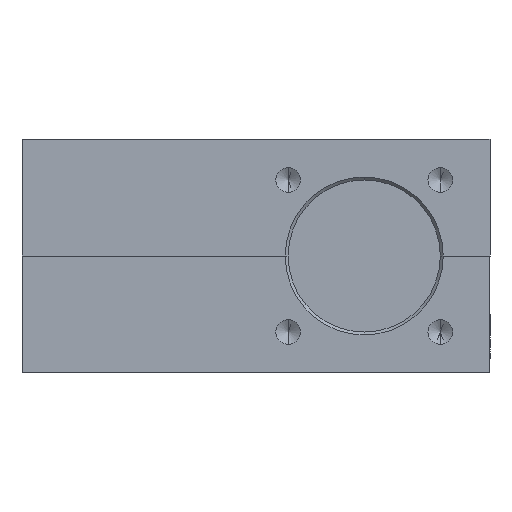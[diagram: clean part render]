
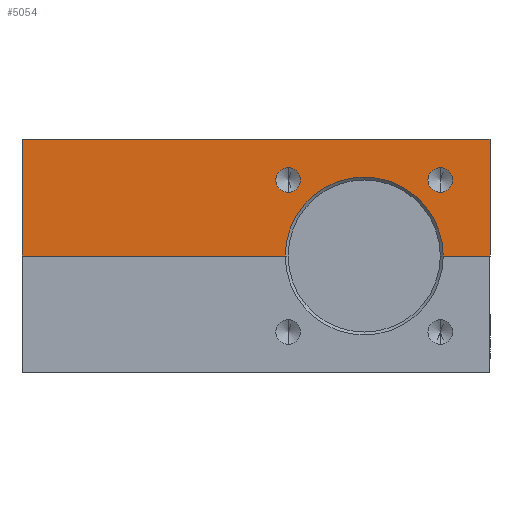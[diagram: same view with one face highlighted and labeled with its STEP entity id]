
A CAD part, left-side view. The second image highlights one B-rep face of the part: STEP entity #5054.
In plain terms, the highlighted planar face has unit normal (-1, 0, 0).
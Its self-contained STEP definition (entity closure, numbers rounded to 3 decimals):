
#23 = EDGE_CURVE ( 'NONE', #7489, #6256, #16127, .T. ) ;
#120 = CARTESIAN_POINT ( 'NONE',  ( -40., -52.5, 20. ) ) ;
#429 = CARTESIAN_POINT ( 'NONE',  ( -40., -18., 10.9 ) ) ;
#891 = CARTESIAN_POINT ( 'NONE',  ( -40., -44., 15.1 ) ) ;
#1131 = EDGE_CURVE ( 'NONE', #15343, #11271, #16236, .T. ) ;
#1133 = EDGE_CURVE ( 'NONE', #15481, #13762, #2172, .T. ) ;
#1271 = EDGE_CURVE ( 'NONE', #13762, #15481, #9764, .T. ) ;
#1645 = LINE ( 'NONE', #10266, #10906 ) ;
#1806 = CARTESIAN_POINT ( 'NONE',  ( -40., -31., 13.5 ) ) ;
#2172 = CIRCLE ( 'NONE', #7035, 2.1 ) ;
#2326 = ORIENTED_EDGE ( 'NONE', *, *, #12646, .T. ) ;
#2464 = AXIS2_PLACEMENT_3D ( 'NONE', #7031, #14615, #12197 ) ;
#2513 = PLANE ( 'NONE',  #5930 ) ;
#2677 = CARTESIAN_POINT ( 'NONE',  ( -40., -31., 0. ) ) ;
#2851 = AXIS2_PLACEMENT_3D ( 'NONE', #7190, #8973, #15201 ) ;
#2938 = CARTESIAN_POINT ( 'NONE',  ( -40., 27.5, 20. ) ) ;
#2992 = EDGE_CURVE ( 'NONE', #12049, #7489, #14428, .T. ) ;
#3184 = ORIENTED_EDGE ( 'NONE', *, *, #23, .T. ) ;
#3378 = VERTEX_POINT ( 'NONE', #14430 ) ;
#3527 = CARTESIAN_POINT ( 'NONE',  ( -40., -52.5, 0. ) ) ;
#3625 = FACE_OUTER_BOUND ( 'NONE', #10439, .T. ) ;
#3703 = DIRECTION ( 'NONE',  ( 1., 0., 0. ) ) ;
#4012 = LINE ( 'NONE', #15561, #15573 ) ;
#4091 = DIRECTION ( 'NONE',  ( 0., -1., 0. ) ) ;
#4441 = VERTEX_POINT ( 'NONE', #3527 ) ;
#4674 = DIRECTION ( 'NONE',  ( 0., -1., 0. ) ) ;
#4753 = CARTESIAN_POINT ( 'NONE',  ( -40., -44., 13. ) ) ;
#4788 = DIRECTION ( 'NONE',  ( 0., 0., 1. ) ) ;
#4839 = DIRECTION ( 'NONE',  ( -1., 0., 0. ) ) ;
#5054 = ADVANCED_FACE ( 'NONE', ( #8598, #15098, #3625 ), #2513, .F. ) ;
#5512 = VERTEX_POINT ( 'NONE', #12948 ) ;
#5826 = VERTEX_POINT ( 'NONE', #429 ) ;
#5930 = AXIS2_PLACEMENT_3D ( 'NONE', #8774, #3703, #7658 ) ;
#6154 = DIRECTION ( 'NONE',  ( -1., 0., 0. ) ) ;
#6256 = VERTEX_POINT ( 'NONE', #11932 ) ;
#6472 = DIRECTION ( 'NONE',  ( 1., 0., 0. ) ) ;
#6864 = DIRECTION ( 'NONE',  ( 0., -1., 0. ) ) ;
#7031 = CARTESIAN_POINT ( 'NONE',  ( -40., -44., 13. ) ) ;
#7035 = AXIS2_PLACEMENT_3D ( 'NONE', #4753, #4839, #14974 ) ;
#7136 = ORIENTED_EDGE ( 'NONE', *, *, #12217, .F. ) ;
#7190 = CARTESIAN_POINT ( 'NONE',  ( -40., -18., 13. ) ) ;
#7471 = VECTOR ( 'NONE', #12698, 1000. ) ;
#7489 = VERTEX_POINT ( 'NONE', #1806 ) ;
#7528 = LINE ( 'NONE', #120, #7471 ) ;
#7658 = DIRECTION ( 'NONE',  ( 0., 1., 0. ) ) ;
#8598 = FACE_BOUND ( 'NONE', #11222, .T. ) ;
#8774 = CARTESIAN_POINT ( 'NONE',  ( -40., 27.5, 20. ) ) ;
#8973 = DIRECTION ( 'NONE',  ( -1., 0., 0. ) ) ;
#9112 = AXIS2_PLACEMENT_3D ( 'NONE', #11387, #6154, #4788 ) ;
#9225 = VECTOR ( 'NONE', #4674, 1000. ) ;
#9447 = CIRCLE ( 'NONE', #9112, 2.1 ) ;
#9609 = AXIS2_PLACEMENT_3D ( 'NONE', #10079, #16400, #14416 ) ;
#9764 = CIRCLE ( 'NONE', #2464, 2.1 ) ;
#10079 = CARTESIAN_POINT ( 'NONE',  ( -40., -31., 0. ) ) ;
#10105 = DIRECTION ( 'NONE',  ( 0., 0., -1. ) ) ;
#10266 = CARTESIAN_POINT ( 'NONE',  ( -40., 27.5, 0. ) ) ;
#10439 = EDGE_LOOP ( 'NONE', ( #12989, #16462, #3184, #2326, #7136, #10603, #10911 ) ) ;
#10603 = ORIENTED_EDGE ( 'NONE', *, *, #1131, .F. ) ;
#10646 = EDGE_CURVE ( 'NONE', #15343, #3378, #15081, .T. ) ;
#10906 = VECTOR ( 'NONE', #4091, 1000. ) ;
#10911 = ORIENTED_EDGE ( 'NONE', *, *, #10646, .T. ) ;
#11083 = EDGE_CURVE ( 'NONE', #3378, #12049, #1645, .T. ) ;
#11180 = CARTESIAN_POINT ( 'NONE',  ( -40., 27.5, 20. ) ) ;
#11222 = EDGE_LOOP ( 'NONE', ( #13535, #15641 ) ) ;
#11271 = VERTEX_POINT ( 'NONE', #12890 ) ;
#11387 = CARTESIAN_POINT ( 'NONE',  ( -40., -18., 13. ) ) ;
#11421 = EDGE_CURVE ( 'NONE', #5512, #5826, #14164, .T. ) ;
#11932 = CARTESIAN_POINT ( 'NONE',  ( -40., -44.5, 0. ) ) ;
#12049 = VERTEX_POINT ( 'NONE', #16299 ) ;
#12197 = DIRECTION ( 'NONE',  ( 0., 0., 1. ) ) ;
#12217 = EDGE_CURVE ( 'NONE', #11271, #4441, #7528, .T. ) ;
#12483 = CARTESIAN_POINT ( 'NONE',  ( -40., -44., 10.9 ) ) ;
#12575 = EDGE_LOOP ( 'NONE', ( #15054, #15787 ) ) ;
#12646 = EDGE_CURVE ( 'NONE', #6256, #4441, #4012, .T. ) ;
#12698 = DIRECTION ( 'NONE',  ( 0., 0., -1. ) ) ;
#12890 = CARTESIAN_POINT ( 'NONE',  ( -40., -52.5, 20. ) ) ;
#12948 = CARTESIAN_POINT ( 'NONE',  ( -40., -18., 15.1 ) ) ;
#12989 = ORIENTED_EDGE ( 'NONE', *, *, #11083, .T. ) ;
#13160 = EDGE_CURVE ( 'NONE', #5826, #5512, #9447, .T. ) ;
#13535 = ORIENTED_EDGE ( 'NONE', *, *, #1271, .F. ) ;
#13762 = VERTEX_POINT ( 'NONE', #891 ) ;
#14164 = CIRCLE ( 'NONE', #2851, 2.1 ) ;
#14416 = DIRECTION ( 'NONE',  ( 0., 1., 0. ) ) ;
#14428 = CIRCLE ( 'NONE', #9609, 13.5 ) ;
#14430 = CARTESIAN_POINT ( 'NONE',  ( -40., 27.5, 0. ) ) ;
#14615 = DIRECTION ( 'NONE',  ( -1., 0., 0. ) ) ;
#14974 = DIRECTION ( 'NONE',  ( 0., 0., 1. ) ) ;
#15054 = ORIENTED_EDGE ( 'NONE', *, *, #11421, .F. ) ;
#15081 = LINE ( 'NONE', #16517, #16277 ) ;
#15098 = FACE_BOUND ( 'NONE', #12575, .T. ) ;
#15201 = DIRECTION ( 'NONE',  ( 0., 0., 1. ) ) ;
#15343 = VERTEX_POINT ( 'NONE', #2938 ) ;
#15481 = VERTEX_POINT ( 'NONE', #12483 ) ;
#15561 = CARTESIAN_POINT ( 'NONE',  ( -40., 27.5, 0. ) ) ;
#15573 = VECTOR ( 'NONE', #6864, 1000. ) ;
#15599 = AXIS2_PLACEMENT_3D ( 'NONE', #2677, #6472, #16283 ) ;
#15641 = ORIENTED_EDGE ( 'NONE', *, *, #1133, .F. ) ;
#15787 = ORIENTED_EDGE ( 'NONE', *, *, #13160, .F. ) ;
#16127 = CIRCLE ( 'NONE', #15599, 13.5 ) ;
#16236 = LINE ( 'NONE', #11180, #9225 ) ;
#16277 = VECTOR ( 'NONE', #10105, 1000. ) ;
#16283 = DIRECTION ( 'NONE',  ( 0., 1., 0. ) ) ;
#16299 = CARTESIAN_POINT ( 'NONE',  ( -40., -17.5, 0. ) ) ;
#16400 = DIRECTION ( 'NONE',  ( 1., 0., 0. ) ) ;
#16462 = ORIENTED_EDGE ( 'NONE', *, *, #2992, .T. ) ;
#16517 = CARTESIAN_POINT ( 'NONE',  ( -40., 27.5, 20. ) ) ;
